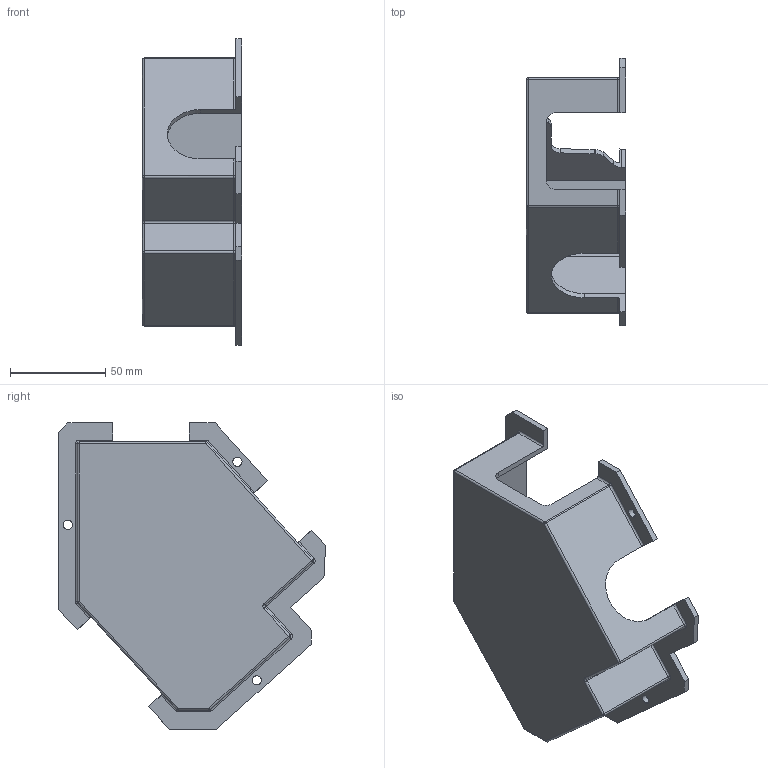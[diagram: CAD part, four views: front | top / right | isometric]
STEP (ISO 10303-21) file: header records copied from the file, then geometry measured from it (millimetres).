
FILE_DESCRIPTION (( 'STEP AP203' ), '1' );
FILE_NAME ('2020-03_1 - COVER.STEP', '2020-04-18T08:50:13', ( '' ), ( '' ), 'SwSTEP 2.0', 'SolidWorks 2018', '' );
FILE_SCHEMA (( 'CONFIG_CONTROL_DESIGN' ));
Length unit declared in the file: millimetre
Products named in the file (1): 2020-03_1 - COVER
Bounding box: 52 x 140.17 x 160.61 mm (x, y, z)
Volume: 96089 mm3; surface area: 65931.1 mm2
Topology: 1 solids, 1 shells, 121 faces, 317 edges, 193 vertices
Faces by surface type: cylinder 53, plane 52, torus 8, sphere 8
Entity records: 3719 total; most frequent: CARTESIAN_POINT 666, DIRECTION 639, ORIENTED_EDGE 618, EDGE_CURVE 309, AXIS2_PLACEMENT_3D 220, LINE 199, VECTOR 199, VERTEX_POINT 190
